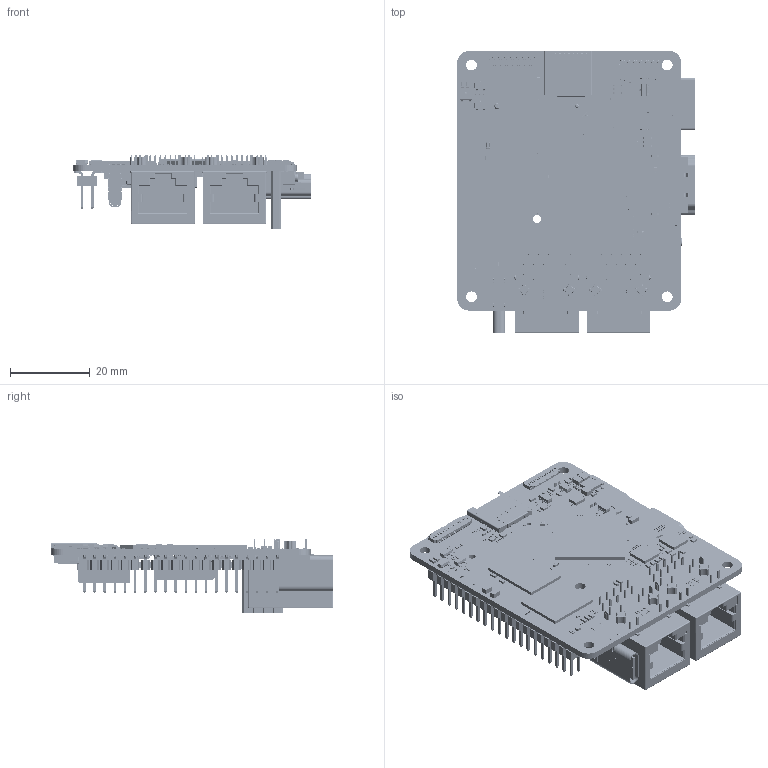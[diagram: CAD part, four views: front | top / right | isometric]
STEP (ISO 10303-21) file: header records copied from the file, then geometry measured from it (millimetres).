
FILE_DESCRIPTION((''),'2;1');
FILE_NAME('RS500_PCBA_3D_V1_2','2025-02-24T15:01:56',('admin'),(''),'CREO PARAMETRIC BY PTC INC, 2024401','CREO PARAMETRIC BY PTC INC, 2024401','');
FILE_SCHEMA(('AUTOMOTIVE_DESIGN { 1 0 10303 214 1 1 1 1 }'));
Products named in the file (1): RS500_PCBA_3D_V1_2
Bounding box: 59.45 x 70.6 x 18.45 mm (x, y, z)
Volume: 17638.3 mm3; surface area: 23675.9 mm2
Topology: 316 solids, 487 shells, 29831 faces, 67601 edges, 38487 vertices
Faces by surface type: plane 15029, cylinder 10596, sphere 2686, torus 1417, extrusion 73, bspline 20, cone 10
Entity records: 909788 total; most frequent: CARTESIAN_POINT 151266, DIRECTION 144399, ORIENTED_EDGE 133968, EDGE_CURVE 66984, AXIS2_PLACEMENT_3D 49225, VECTOR 45949, LINE 45876, VERTEX_POINT 38487
